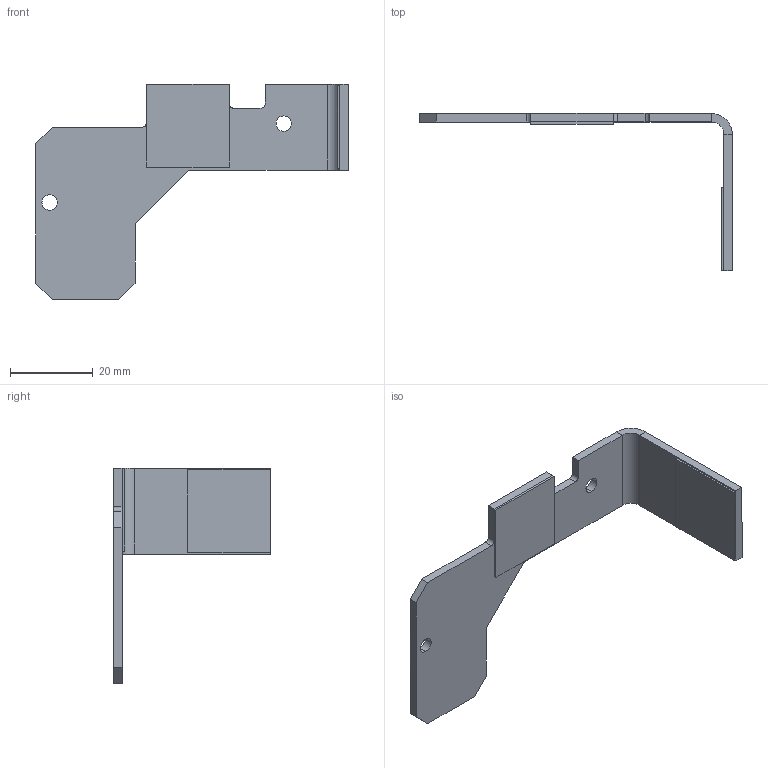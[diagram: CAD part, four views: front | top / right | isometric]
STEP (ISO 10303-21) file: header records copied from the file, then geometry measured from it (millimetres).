
FILE_DESCRIPTION (( 'STEP AP214' ), '1' );
FILE_NAME ('3010-EVM-G2-PAD3000-HEATSINK-FLEX-BRACKET.STEP', '2017-06-20T20:14:42', ( '' ), ( '' ), 'SwSTEP 2.0', 'SolidWorks 2016', '' );
FILE_SCHEMA (( 'AUTOMOTIVE_DESIGN' ));
Length unit declared in the file: millimetre
Products named in the file (3): 3010-EVM-B-THERMAL-HEATSINK-PAD; 3010-EVM-G2-PAD3000-HEATSINK-FLEX-BRACKET
Assembly tree (3 placements, depth 2):
  3010-EVM-G2-PAD3000-HEATSINK-FLEX-BRACKET
    3010-EVM-G2-PAD3000-HEATSINK-FLEX-BRACKET
    3010-EVM-B-THERMAL-HEATSINK-PAD  x2
Bounding box: 75.47 x 37.9 x 52.05 mm (x, y, z)
Volume: 5970.1 mm3; surface area: 7847 mm2
Topology: 3 solids, 3 shells, 52 faces, 130 edges, 84 vertices
Faces by surface type: plane 38, cylinder 14
Entity records: 1516 total; most frequent: DIRECTION 250, CARTESIAN_POINT 246, ORIENTED_EDGE 236, EDGE_CURVE 118, LINE 90, VECTOR 90, AXIS2_PLACEMENT_3D 80, VERTEX_POINT 76
